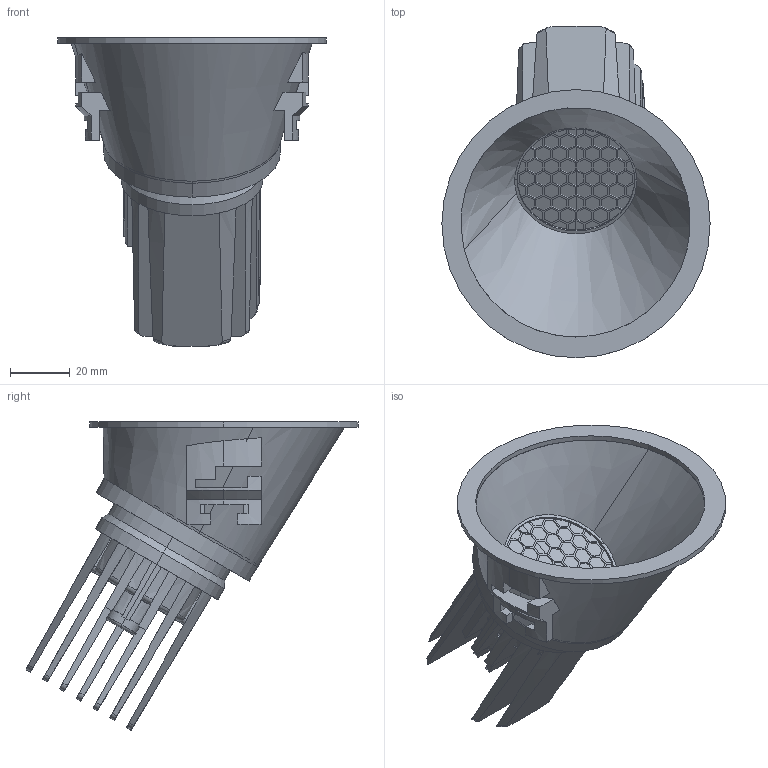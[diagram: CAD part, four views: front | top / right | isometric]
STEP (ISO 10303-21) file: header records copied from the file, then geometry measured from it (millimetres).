
FILE_DESCRIPTION(/* description */ (''),/* implementation_level */ '2;1');
FILE_NAME(/* name */ 'C:\Users\FrancoSartori\Documents\FARO\01_En Proceso\0000_2022\000_PRO\1_TULIPA\03_Publicación\TULIPA ASYMETRIC.stp',/* time_stamp */ '2022-05-27T09:39:29+02:00',/* author */ ('FrancoSartori'),/* organization */ (''),/* preprocessor_version */ 'ST-DEVELOPER v19',/* originating_system */ 'AutoCAD Mechanical',/* authorisation */ '');
FILE_SCHEMA (('AUTOMOTIVE_DESIGN { 1 0 10303 214 3 1 1 }'));
Length unit declared in the file: millimetre
Products named in the file (2): Product; TULIPA ASYMETRIC_ - Lamp-750476-Export
Assembly tree (1 placements, depth 2):
  Product
    TULIPA ASYMETRIC_ - Lamp-750476-Export
Bounding box: 90.01 x 111.43 x 103.47 mm (x, y, z)
Volume: 115313.1 mm3; surface area: 73456 mm2
Topology: 14 solids, 15 shells, 587 faces, 1734 edges, 1125 vertices
Faces by surface type: plane 441, cylinder 69, cone 44, torus 20, bspline 13
Entity records: 21034 total; most frequent: CARTESIAN_POINT 5425, ORIENTED_EDGE 3272, DIRECTION 3002, EDGE_CURVE 1732, LINE 1312, VECTOR 1312, VERTEX_POINT 1125, AXIS2_PLACEMENT_3D 845
